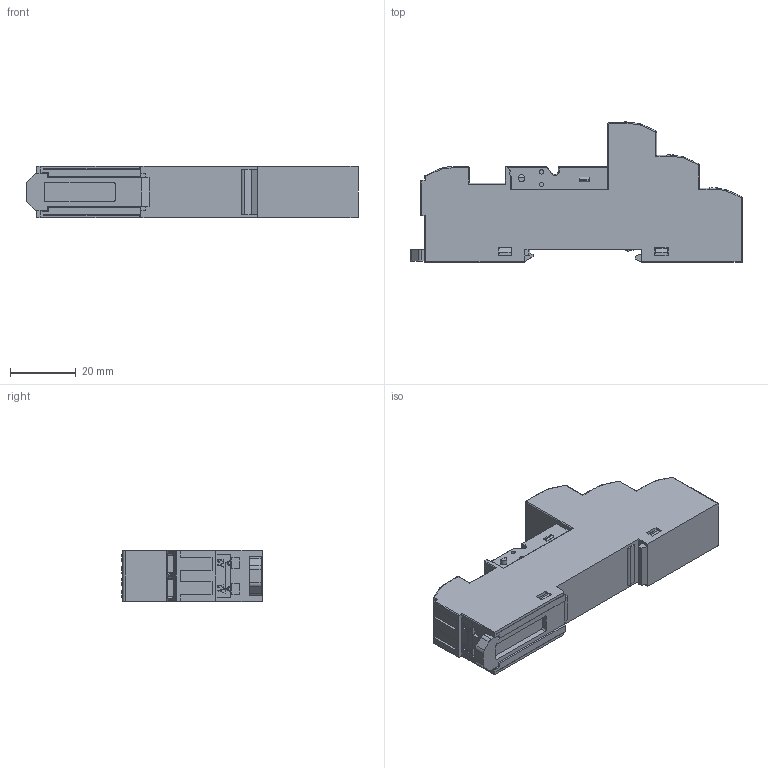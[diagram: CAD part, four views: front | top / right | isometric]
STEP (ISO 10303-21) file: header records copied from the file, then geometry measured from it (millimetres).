
FILE_DESCRIPTION (( 'STEP AP203' ), '1' );
FILE_NAME ('SRU08-ST 俋倛.STEP', '2023-05-13T07:00:31', ( '' ), ( '' ), 'SwSTEP 2.0', 'SolidWorks 2018', '' );
FILE_SCHEMA (( 'CONFIG_CONTROL_DESIGN' ));
Length unit declared in the file: millimetre
Products named in the file (1): SRU08-ST 俋倛
Bounding box: 101.2 x 42.7 x 15.85 mm (x, y, z)
Volume: 41980.5 mm3; surface area: 12912.3 mm2
Topology: 1 solids, 2 shells, 1270 faces, 3573 edges, 2334 vertices
Faces by surface type: plane 740, cylinder 389, cone 53, bspline 49, torus 20, sphere 19
Entity records: 42902 total; most frequent: CARTESIAN_POINT 11835, ORIENTED_EDGE 7108, DIRECTION 5722, EDGE_CURVE 3554, LINE 2354, VECTOR 2354, VERTEX_POINT 2334, AXIS2_PLACEMENT_3D 1684
